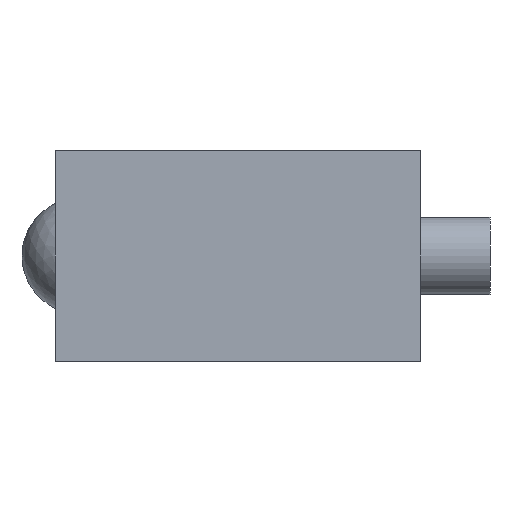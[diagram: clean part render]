
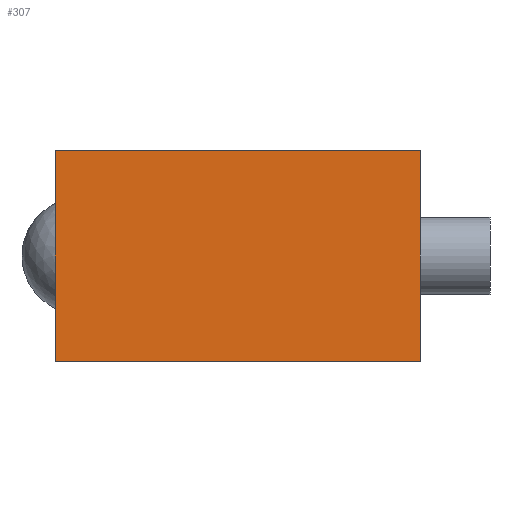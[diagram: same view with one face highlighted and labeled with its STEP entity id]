
A CAD part, left-side view. The second image highlights one B-rep face of the part: STEP entity #307.
In plain terms, the highlighted planar face has unit normal (-1, 0, 0).
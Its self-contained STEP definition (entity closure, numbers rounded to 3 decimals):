
#21=LINE('',#499,#37);
#27=LINE('',#514,#43);
#31=LINE('',#526,#47);
#33=LINE('',#529,#49);
#37=VECTOR('',#420,10.);
#43=VECTOR('',#430,10.);
#47=VECTOR('',#446,10.);
#49=VECTOR('',#450,10.);
#72=PLANE('',#363);
#92=FACE_OUTER_BOUND('',#122,.T.);
#122=EDGE_LOOP('',(#249,#250,#251,#252));
#154=VERTEX_POINT('',#497);
#155=VERTEX_POINT('',#498);
#161=VERTEX_POINT('',#511);
#162=VERTEX_POINT('',#513);
#180=EDGE_CURVE('',#154,#155,#21,.T.);
#187=EDGE_CURVE('',#161,#162,#27,.T.);
#193=EDGE_CURVE('',#162,#154,#31,.T.);
#195=EDGE_CURVE('',#155,#161,#33,.T.);
#249=ORIENTED_EDGE('',*,*,#187,.F.);
#250=ORIENTED_EDGE('',*,*,#195,.F.);
#251=ORIENTED_EDGE('',*,*,#180,.F.);
#252=ORIENTED_EDGE('',*,*,#193,.F.);
#307=ADVANCED_FACE('',(#92),#72,.T.);
#363=AXIS2_PLACEMENT_3D('',#528,#448,#449);
#420=DIRECTION('',(0.,0.,1.));
#430=DIRECTION('',(0.,0.,-1.));
#446=DIRECTION('',(0.,1.,0.));
#448=DIRECTION('center_axis',(-1.,0.,0.));
#449=DIRECTION('ref_axis',(0.,-1.,0.));
#450=DIRECTION('',(0.,-1.,0.));
#497=CARTESIAN_POINT('',(-105.,18.9,-10.9));
#498=CARTESIAN_POINT('',(-105.,18.9,10.9));
#499=CARTESIAN_POINT('',(-105.,18.9,0.));
#511=CARTESIAN_POINT('',(-105.,-18.9,10.9));
#513=CARTESIAN_POINT('',(-105.,-18.9,-10.9));
#514=CARTESIAN_POINT('',(-105.,-18.9,0.));
#526=CARTESIAN_POINT('',(-105.,18.9,-10.9));
#528=CARTESIAN_POINT('Origin',(-105.,18.9,0.));
#529=CARTESIAN_POINT('',(-105.,18.9,10.9));
